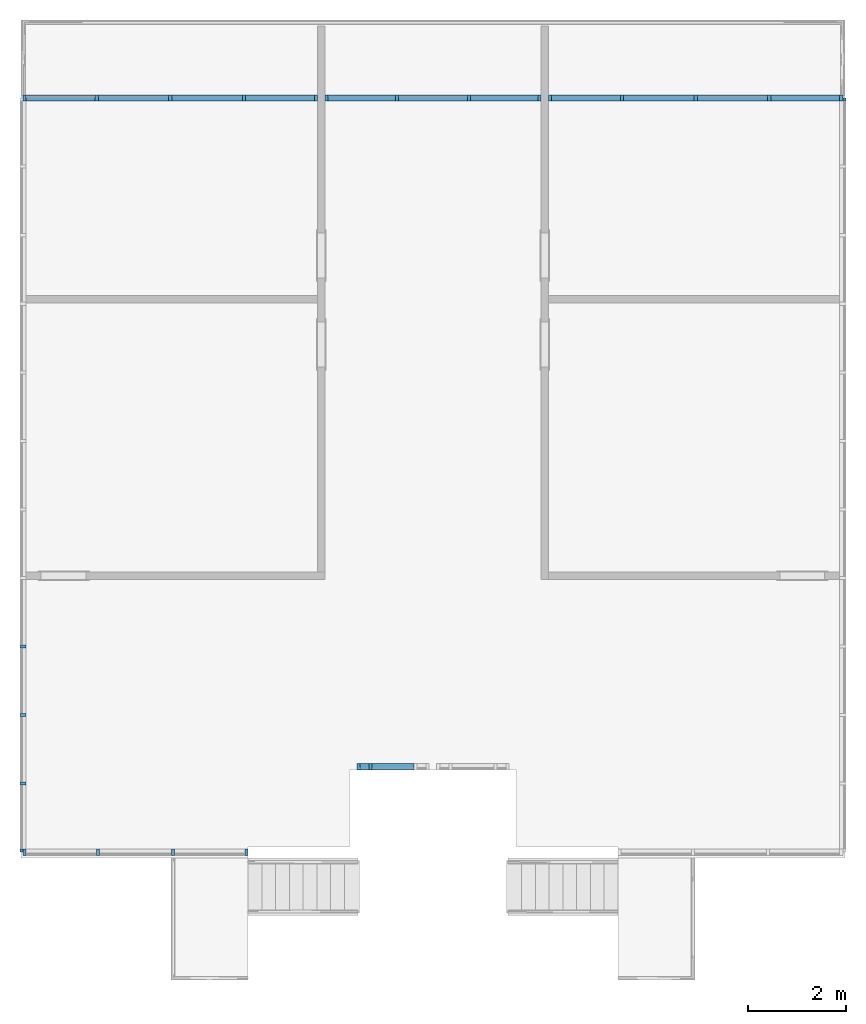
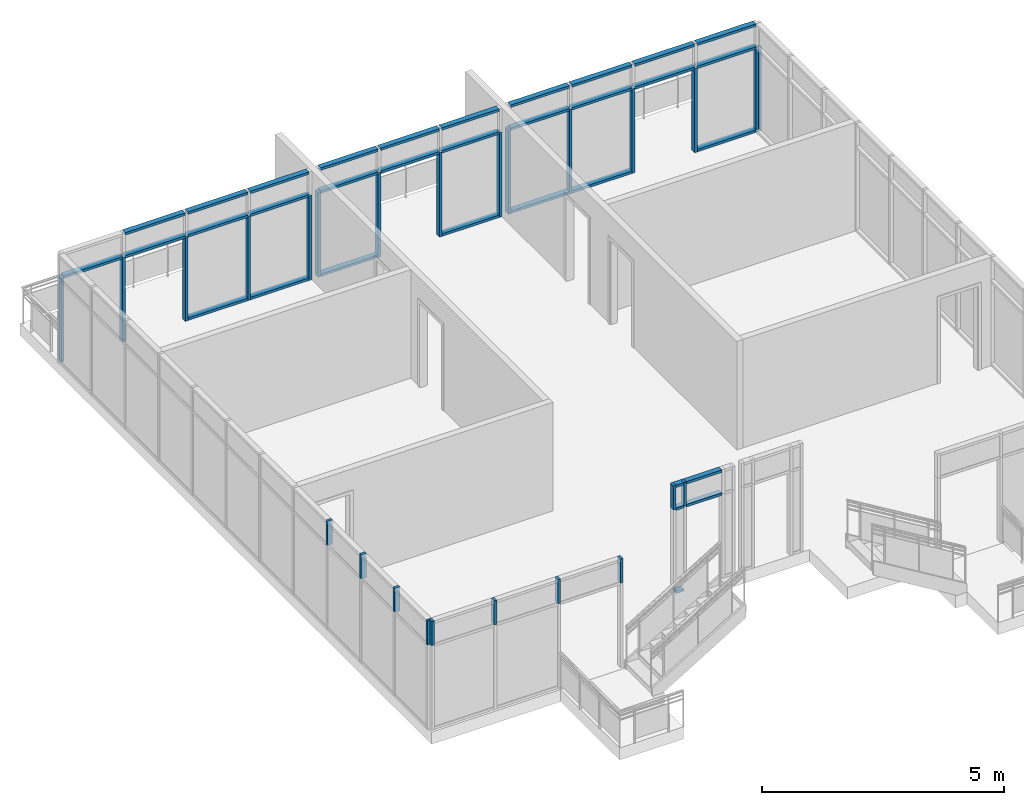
# One storey, part 3 of 11: 58 members, 7 elements without a shape of their own.
"""IFC2X3 building model written with IfcOpenShell, lengths in feet."""

from ifc_helpers import new_model, entity, si_unit, converted_unit, derived_unit, direction, frame, origin, origin_2d_with_axis, place, context, subcontext, project, spatial, rectangle, extrude, source, transform, mapped, material, type_object, type_shapes, element, aggregate, save


model = new_model("IFC2X3")

# Units and contexts
model_context = context("Model", 3, precision=0.0001, world=origin(), true_north=direction((6.12303176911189e-17, 1.0)))
body_context = subcontext(model_context, "Body", "Model", "MODEL_VIEW")
ifc_project = project(units=[converted_unit("LENGTHUNIT", "FOOT", entity("IfcRatioMeasure", 0.3048), si_unit("LENGTHUNIT", "METRE"), dimensions=[1, 0, 0, 0, 0, 0, 0]), converted_unit("AREAUNIT", "SQUARE FOOT", entity("IfcRatioMeasure", 0.09290304), si_unit("AREAUNIT", "SQUARE_METRE"), dimensions=[2, 0, 0, 0, 0, 0, 0]), converted_unit("VOLUMEUNIT", "CUBIC FOOT", entity("IfcRatioMeasure", 0.028316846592), si_unit("VOLUMEUNIT", "CUBIC_METRE"), dimensions=[3, 0, 0, 0, 0, 0, 0]), converted_unit("PLANEANGLEUNIT", "DEGREE", entity("IfcRatioMeasure", 0.0174532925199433), si_unit("PLANEANGLEUNIT", "RADIAN"), dimensions=[0, 0, 0, 0, 0, 0, 0]), si_unit("MASSUNIT", "GRAM", prefix="KILO"), derived_unit("MASSDENSITYUNIT", [(si_unit("MASSUNIT", "GRAM", prefix="KILO"), 1), (si_unit("LENGTHUNIT", "METRE"), -3)]), si_unit("TIMEUNIT", "SECOND"), si_unit("FREQUENCYUNIT", "HERTZ"), si_unit("THERMODYNAMICTEMPERATUREUNIT", "DEGREE_CELSIUS"), derived_unit("THERMALTRANSMITTANCEUNIT", [(si_unit("MASSUNIT", "GRAM", prefix="KILO"), 1), (si_unit("THERMODYNAMICTEMPERATUREUNIT", "KELVIN"), -1), (si_unit("TIMEUNIT", "SECOND"), -3)]), derived_unit("VOLUMETRICFLOWRATEUNIT", [(si_unit("LENGTHUNIT", "METRE"), 3), (si_unit("TIMEUNIT", "SECOND"), -1)]), si_unit("ELECTRICCURRENTUNIT", "AMPERE"), si_unit("ELECTRICVOLTAGEUNIT", "VOLT"), si_unit("POWERUNIT", "WATT"), si_unit("FORCEUNIT", "NEWTON"), si_unit("ILLUMINANCEUNIT", "LUX"), si_unit("LUMINOUSFLUXUNIT", "LUMEN"), si_unit("LUMINOUSINTENSITYUNIT", "CANDELA"), derived_unit("USERDEFINED", [(si_unit("MASSUNIT", "GRAM", prefix="KILO"), -1), (si_unit("LENGTHUNIT", "METRE"), -2), (si_unit("TIMEUNIT", "SECOND"), 3), (si_unit("LUMINOUSFLUXUNIT", "LUMEN"), 1)]), derived_unit("LINEARVELOCITYUNIT", [(si_unit("LENGTHUNIT", "METRE"), 1), (si_unit("TIMEUNIT", "SECOND"), -1)]), si_unit("PRESSUREUNIT", "PASCAL"), derived_unit("USERDEFINED", [(si_unit("LENGTHUNIT", "METRE"), -2), (si_unit("MASSUNIT", "GRAM", prefix="KILO"), 1), (si_unit("TIMEUNIT", "SECOND"), -2)])], contexts=[model_context])

# Site, building, storey
site_placement = place(None, origin())
site = spatial("IfcSite", under=ifc_project, at=site_placement, Name="Default", CompositionType="ELEMENT")
building_placement = place(site_placement, origin())
building = spatial("IfcBuilding", under=site, at=building_placement, CompositionType="ELEMENT")
storey_placement = place(building_placement, frame((0.0, 0.0, 10.0)))
storey = spatial("IfcBuildingStorey", under=building, at=storey_placement, Name="Level 2", CompositionType="ELEMENT", Elevation=9.99999999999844)

# Curtain wall, member
curtain_wall_type = type_object("IfcCurtainWallType", Name="Curtain Wall:Storefront 2", PredefinedType="NOTDEFINED")
curtain_wall_1_placement = place(storey_placement, frame((0.0, 0.0, -10.0)))
curtain_wall_1 = element("IfcCurtainWall", 1, at=curtain_wall_1_placement, inside=storey, type_object=curtain_wall_type, Name="Curtain Wall:Storefront 2", ObjectType="Curtain Wall:Storefront 2")
ifc_material = material(Name="Aluminum")
member_type_1 = type_object("IfcMemberType", Name="2.5\" x 5\" rectangular", PredefinedType="MEMBER")
shared_shape_1 = source(origin(), body_context, "Body", "SweptSolid", [
    extrude(rectangle(XDim=0.416666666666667, YDim=0.208333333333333, at=origin_2d_with_axis()), frame((-0.104166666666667, 0.0, -7.0), z_axis=(0.0, 0.0, 1.0), x_axis=(0.0, -1.0, 0.0)), (0.0, 0.0, 1.0), 7.0),
])
type_shapes(member_type_1, [shared_shape_1])
member_1_placement = place(storey_placement, frame((-41.6963748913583, 43.3505254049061, 0.0), z_axis=(0.0, 0.0, -1.0), x_axis=(1.0, 0.0, 0.0)))
member_1 = element("IfcMember", 2, at=member_1_placement, type_object=member_type_1, material=ifc_material, Name="Rectangular Mullion:2.5\" x 5\" rectangular", ObjectType="2.5\" x 5\" rectangular", context=body_context, shape_type="MappedRepresentation", body=[
    mapped(shared_shape_1, transform((0.0, 0.0, 0.0), scale=1.0)),
])

curtain_wall_2_placement = place(storey_placement, frame((0.0, 0.0, -10.0)))
curtain_wall_2 = element("IfcCurtainWall", 3, at=curtain_wall_2_placement, inside=storey, type_object=curtain_wall_type, Name="Curtain Wall:Storefront 2", ObjectType="Curtain Wall:Storefront 2")
member_2_placement = place(storey_placement, frame((-6.65849610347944, 43.350525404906, 0.0), z_axis=(0.0, 0.0, -1.0), x_axis=(1.0, 0.0, 0.0)))
member_2 = element("IfcMember", 4, at=member_2_placement, type_object=member_type_1, material=ifc_material, Name="Rectangular Mullion:2.5\" x 5\" rectangular", ObjectType="2.5\" x 5\" rectangular", context=body_context, shape_type="MappedRepresentation", body=[
    mapped(shared_shape_1, transform((0.0, 0.0, 0.0), scale=1.0)),
])

curtain_wall_3_placement = place(storey_placement, frame((0.0, 0.0, -10.0)))
curtain_wall_3 = element("IfcCurtainWall", 5, at=curtain_wall_3_placement, inside=storey, type_object=curtain_wall_type, Name="Curtain Wall:Storefront 2", ObjectType="Curtain Wall:Storefront 2")
member_3_placement = place(storey_placement, frame((-26.7872839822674, 43.350525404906, 0.0), z_axis=(0.0, 0.0, -1.0), x_axis=(1.0, 0.0, 0.0)))
member_3 = element("IfcMember", 6, at=member_3_placement, type_object=member_type_1, material=ifc_material, Name="Rectangular Mullion:2.5\" x 5\" rectangular", ObjectType="2.5\" x 5\" rectangular", context=body_context, shape_type="MappedRepresentation", body=[
    mapped(shared_shape_1, transform((0.0, 0.0, 0.0), scale=1.0)),
])

curtain_wall_4_placement = place(storey_placement, frame((0.0, 0.0, -10.0)))
curtain_wall_4 = element("IfcCurtainWall", 7, at=curtain_wall_4_placement, inside=storey, type_object=curtain_wall_type, Name="Curtain Wall:Storefront 2", ObjectType="Curtain Wall:Storefront 2")
member_type_2 = type_object("IfcMemberType", Name="2.5\" x 5\" rectangular", PredefinedType="MEMBER")
shared_shape_2 = source(origin(), body_context, "Body", "SweptSolid", [
    extrude(rectangle(XDim=0.416666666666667, YDim=0.208333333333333, at=origin_2d_with_axis()), frame((-0.104166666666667, 0.0, -2.0), z_axis=(0.0, 0.0, 1.0), x_axis=(0.0, -1.0, 0.0)), (0.0, 0.0, 1.0), 2.0),
])
type_shapes(member_type_2, [shared_shape_2])
member_4_placement = place(storey_placement, frame((-61.3251627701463, -6.94114126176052, 7.0), z_axis=(0.0, 0.0, -1.0), x_axis=(-1.0, 0.0, 0.0)))
member_4 = element("IfcMember", 8, at=member_4_placement, type_object=member_type_2, material=ifc_material, Name="Rectangular Mullion:2.5\" x 5\" rectangular", ObjectType="2.5\" x 5\" rectangular", context=body_context, shape_type="MappedRepresentation", body=[
    mapped(shared_shape_2, transform((0.0, 0.0, 0.0), scale=1.0)),
])

curtain_wall_5_placement = place(storey_placement, frame((0.0, 0.0, -10.0)))
curtain_wall_5 = element("IfcCurtainWall", 9, at=curtain_wall_5_placement, inside=storey, type_object=curtain_wall_type, Name="Curtain Wall:Storefront 2", ObjectType="Curtain Wall:Storefront 2")
member_5_placement = place(storey_placement, frame((-39.0751627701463, -1.23280792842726, 7.0), z_axis=(0.0, 0.0, -1.0), x_axis=(-1.0, 0.0, 0.0)))
member_5 = element("IfcMember", 10, at=member_5_placement, type_object=member_type_2, material=ifc_material, Name="Rectangular Mullion:2.5\" x 5\" rectangular", ObjectType="2.5\" x 5\" rectangular", context=body_context, shape_type="MappedRepresentation", body=[
    mapped(shared_shape_2, transform((0.0, 0.0, 0.0), scale=1.0)),
])

# Member
member_type_3 = type_object("IfcMemberType", Name="2.5\" x 5\" rectangular", PredefinedType="MEMBER")
shared_shape_3 = source(origin(), body_context, "Body", "SweptSolid", [
    extrude(rectangle(XDim=0.416666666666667, YDim=0.208333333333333, at=origin_2d_with_axis()), frame((-0.104166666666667, 0.0, -2.0), z_axis=(0.0, 0.0, 1.0), x_axis=(0.0, -1.0, 0.0)), (0.0, 0.0, 1.0), 2.0),
])
type_shapes(member_type_3, [shared_shape_3])
member_6_placement = place(storey_placement, frame((-46.3251627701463, -6.94114126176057, 9.0)))
member_6 = element("IfcMember", 11, at=member_6_placement, type_object=member_type_3, material=ifc_material, Name="Rectangular Mullion:2.5\" x 5\" rectangular", ObjectType="2.5\" x 5\" rectangular", context=body_context, shape_type="MappedRepresentation", body=[
    mapped(shared_shape_3, transform((0.0, 0.0, 0.0), scale=1.0)),
])

# Curtain wall, member
curtain_wall_6_placement = place(storey_placement, frame((0.0, 0.0, -10.0)))
curtain_wall_6 = element("IfcCurtainWall", 12, at=curtain_wall_6_placement, inside=storey, type_object=curtain_wall_type, Name="Curtain Wall:Storefront 2", ObjectType="Curtain Wall:Storefront 2")
member_7_placement = place(storey_placement, frame((-61.3251627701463, -6.94114126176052, 9.0), z_axis=(0.0, 0.0, 1.0), x_axis=(0.0, -1.0, 0.0)))
member_7 = element("IfcMember", 13, at=member_7_placement, type_object=member_type_3, material=ifc_material, Name="Rectangular Mullion:2.5\" x 5\" rectangular", ObjectType="2.5\" x 5\" rectangular", context=body_context, shape_type="MappedRepresentation", body=[
    mapped(shared_shape_3, transform((0.0, 0.0, 0.0), scale=1.0)),
])

# Member
member_type_4 = type_object("IfcMemberType", Name="2.5\" x 5\" rectangular", PredefinedType="MEMBER")
shared_shape_4 = source(origin(), body_context, "Body", "SweptSolid", [
    extrude(rectangle(XDim=0.416666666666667, YDim=0.208333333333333, at=origin_2d_with_axis()), frame((-0.104166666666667, 0.0, -7.0), z_axis=(0.0, 0.0, 1.0), x_axis=(0.0, -1.0, 0.0)), (0.0, 0.0, 1.0), 7.0),
])
type_shapes(member_type_4, [shared_shape_4])
member_8_placement = place(storey_placement, frame((-61.3251627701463, 43.3505254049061, 7.0), z_axis=(0.0, 0.0, 1.0), x_axis=(-1.0, 0.0, 0.0)))
member_8 = element("IfcMember", 14, at=member_8_placement, type_object=member_type_4, material=ifc_material, Name="Rectangular Mullion:2.5\" x 5\" rectangular", ObjectType="2.5\" x 5\" rectangular", context=body_context, shape_type="MappedRepresentation", body=[
    mapped(shared_shape_4, transform((0.0, 0.0, 0.0), scale=1.0)),
])

# Curtain wall, member
curtain_wall_7_placement = place(storey_placement, frame((0.0, 0.0, -10.0)))
curtain_wall_7 = element("IfcCurtainWall", 15, at=curtain_wall_7_placement, inside=storey, type_object=curtain_wall_type, Name="Curtain Wall:Storefront 2", ObjectType="Curtain Wall:Storefront 2")
member_9_placement = place(storey_placement, frame((-6.65849610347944, 43.350525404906, 7.0), z_axis=(0.0, 0.0, 1.0), x_axis=(0.0, 1.0, 0.0)))
member_9 = element("IfcMember", 16, at=member_9_placement, type_object=member_type_4, material=ifc_material, Name="Rectangular Mullion:2.5\" x 5\" rectangular", ObjectType="2.5\" x 5\" rectangular", context=body_context, shape_type="MappedRepresentation", body=[
    mapped(shared_shape_4, transform((0.0, 0.0, 0.0), scale=1.0)),
])
aggregate(curtain_wall_7, [member_9])

# Member
member_10_placement = place(storey_placement, frame((-26.2872839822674, 43.350525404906, 7.0), z_axis=(0.0, 0.0, 1.0), x_axis=(-1.0, 0.0, 0.0)))
member_10 = element("IfcMember", 17, at=member_10_placement, type_object=member_type_4, material=ifc_material, Name="Rectangular Mullion:2.5\" x 5\" rectangular", ObjectType="2.5\" x 5\" rectangular", context=body_context, shape_type="MappedRepresentation", body=[
    mapped(shared_shape_4, transform((0.0, 0.0, 0.0), scale=1.0)),
])

member_11_placement = place(storey_placement, frame((-41.1963748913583, 43.3505254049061, 7.0), z_axis=(0.0, 0.0, 1.0), x_axis=(-1.0, 0.0, 0.0)))
member_11 = element("IfcMember", 18, at=member_11_placement, type_object=member_type_4, material=ifc_material, Name="Rectangular Mullion:2.5\" x 5\" rectangular", ObjectType="2.5\" x 5\" rectangular", context=body_context, shape_type="MappedRepresentation", body=[
    mapped(shared_shape_4, transform((0.0, 0.0, 0.0), scale=1.0)),
])

member_type_5 = type_object("IfcMemberType", Name="2.5\" x 5\" rectangular", PredefinedType="MEMBER")
shared_shape_5 = source(origin(), body_context, "Body", "SweptSolid", [
    extrude(rectangle(XDim=0.416666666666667, YDim=0.208333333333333, at=origin_2d_with_axis()), frame((0.0, 0.0, -7.0), z_axis=(0.0, 0.0, 1.0), x_axis=(0.0, -1.0, 0.0)), (0.0, 0.0, 1.0), 7.0),
])
type_shapes(member_type_5, [shared_shape_5])
member_12_placement = place(storey_placement, frame((-56.4179658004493, 43.3505254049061, 0.0), z_axis=(0.0, 0.0, -1.0), x_axis=(1.0, 0.0, 0.0)))
member_12 = element("IfcMember", 19, at=member_12_placement, type_object=member_type_5, material=ifc_material, Name="Rectangular Mullion:2.5\" x 5\" rectangular", ObjectType="2.5\" x 5\" rectangular", context=body_context, shape_type="MappedRepresentation", body=[
    mapped(shared_shape_5, transform((0.0, 0.0, 0.0), scale=1.0)),
])

member_13_placement = place(storey_placement, frame((-51.5107688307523, 43.3505254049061, 0.0), z_axis=(0.0, 0.0, -1.0), x_axis=(1.0, 0.0, 0.0)))
member_13 = element("IfcMember", 20, at=member_13_placement, type_object=member_type_5, material=ifc_material, Name="Rectangular Mullion:2.5\" x 5\" rectangular", ObjectType="2.5\" x 5\" rectangular", context=body_context, shape_type="MappedRepresentation", body=[
    mapped(shared_shape_5, transform((0.0, 0.0, 0.0), scale=1.0)),
])

member_14_placement = place(storey_placement, frame((-46.6035718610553, 43.3505254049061, 0.0), z_axis=(0.0, 0.0, -1.0), x_axis=(1.0, 0.0, 0.0)))
member_14 = element("IfcMember", 21, at=member_14_placement, type_object=member_type_5, material=ifc_material, Name="Rectangular Mullion:2.5\" x 5\" rectangular", ObjectType="2.5\" x 5\" rectangular", context=body_context, shape_type="MappedRepresentation", body=[
    mapped(shared_shape_5, transform((0.0, 0.0, 0.0), scale=1.0)),
])

member_15_placement = place(storey_placement, frame((-21.3800870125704, 43.350525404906, 0.0), z_axis=(0.0, 0.0, -1.0), x_axis=(1.0, 0.0, 0.0)))
member_15 = element("IfcMember", 22, at=member_15_placement, type_object=member_type_5, material=ifc_material, Name="Rectangular Mullion:2.5\" x 5\" rectangular", ObjectType="2.5\" x 5\" rectangular", context=body_context, shape_type="MappedRepresentation", body=[
    mapped(shared_shape_5, transform((0.0, 0.0, 0.0), scale=1.0)),
])

member_16_placement = place(storey_placement, frame((-16.4728900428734, 43.350525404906, 0.0), z_axis=(0.0, 0.0, -1.0), x_axis=(1.0, 0.0, 0.0)))
member_16 = element("IfcMember", 23, at=member_16_placement, type_object=member_type_5, material=ifc_material, Name="Rectangular Mullion:2.5\" x 5\" rectangular", ObjectType="2.5\" x 5\" rectangular", context=body_context, shape_type="MappedRepresentation", body=[
    mapped(shared_shape_5, transform((0.0, 0.0, 0.0), scale=1.0)),
])

member_17_placement = place(storey_placement, frame((-11.5656930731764, 43.350525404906, 0.0), z_axis=(0.0, 0.0, -1.0), x_axis=(1.0, 0.0, 0.0)))
member_17 = element("IfcMember", 24, at=member_17_placement, type_object=member_type_5, material=ifc_material, Name="Rectangular Mullion:2.5\" x 5\" rectangular", ObjectType="2.5\" x 5\" rectangular", context=body_context, shape_type="MappedRepresentation", body=[
    mapped(shared_shape_5, transform((0.0, 0.0, 0.0), scale=1.0)),
])

member_18_placement = place(storey_placement, frame((-36.393344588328, 43.3505254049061, 0.0), z_axis=(0.0, 0.0, -1.0), x_axis=(1.0, 0.0, 0.0)))
member_18 = element("IfcMember", 25, at=member_18_placement, type_object=member_type_5, material=ifc_material, Name="Rectangular Mullion:2.5\" x 5\" rectangular", ObjectType="2.5\" x 5\" rectangular", context=body_context, shape_type="MappedRepresentation", body=[
    mapped(shared_shape_5, transform((0.0, 0.0, 0.0), scale=1.0)),
])

member_19_placement = place(storey_placement, frame((-31.5903142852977, 43.350525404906, 0.0), z_axis=(0.0, 0.0, -1.0), x_axis=(1.0, 0.0, 0.0)))
member_19 = element("IfcMember", 26, at=member_19_placement, type_object=member_type_5, material=ifc_material, Name="Rectangular Mullion:2.5\" x 5\" rectangular", ObjectType="2.5\" x 5\" rectangular", context=body_context, shape_type="MappedRepresentation", body=[
    mapped(shared_shape_5, transform((0.0, 0.0, 0.0), scale=1.0)),
])

member_type_6 = type_object("IfcMemberType", Name="2.5\" x 5\" rectangular", PredefinedType="MEMBER")
shared_shape_6 = source(origin(), body_context, "Body", "SweptSolid", [
    extrude(rectangle(XDim=0.416666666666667, YDim=0.208333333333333, at=origin_2d_with_axis()), frame((0.0, 0.0, -2.0), z_axis=(0.0, 0.0, 1.0), x_axis=(0.0, -1.0, 0.0)), (0.0, 0.0, 1.0), 2.0),
])
type_shapes(member_type_6, [shared_shape_6])
member_20_placement = place(storey_placement, frame((-51.3251627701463, -6.94114126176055, 7.0), z_axis=(0.0, 0.0, -1.0), x_axis=(-1.0, 0.0, 0.0)))
member_20 = element("IfcMember", 27, at=member_20_placement, type_object=member_type_6, material=ifc_material, Name="Rectangular Mullion:2.5\" x 5\" rectangular", ObjectType="2.5\" x 5\" rectangular", context=body_context, shape_type="MappedRepresentation", body=[
    mapped(shared_shape_6, transform((0.0, 0.0, 0.0), scale=1.0)),
])

member_21_placement = place(storey_placement, frame((-56.3251627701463, -6.94114126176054, 7.0), z_axis=(0.0, 0.0, -1.0), x_axis=(-1.0, 0.0, 0.0)))
member_21 = element("IfcMember", 28, at=member_21_placement, type_object=member_type_6, material=ifc_material, Name="Rectangular Mullion:2.5\" x 5\" rectangular", ObjectType="2.5\" x 5\" rectangular", context=body_context, shape_type="MappedRepresentation", body=[
    mapped(shared_shape_6, transform((0.0, 0.0, 0.0), scale=1.0)),
])

aggregate(curtain_wall_4, [member_4, member_6, member_20, member_21])

member_22_placement = place(storey_placement, frame((-38.1584961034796, -1.23280792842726, 7.0), z_axis=(0.0, 0.0, -1.0), x_axis=(-1.0, 0.0, 0.0)))
member_22 = element("IfcMember", 29, at=member_22_placement, type_object=member_type_6, material=ifc_material, Name="Rectangular Mullion:2.5\" x 5\" rectangular", ObjectType="2.5\" x 5\" rectangular", context=body_context, shape_type="MappedRepresentation", body=[
    mapped(shared_shape_6, transform((0.0, 0.0, 0.0), scale=1.0)),
])

member_23_placement = place(storey_placement, frame((-61.3251627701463, -2.36917156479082, 7.0), z_axis=(0.0, 0.0, -1.0), x_axis=(0.0, 1.0, 0.0)))
member_23 = element("IfcMember", 30, at=member_23_placement, type_object=member_type_6, material=ifc_material, Name="Rectangular Mullion:2.5\" x 5\" rectangular", ObjectType="2.5\" x 5\" rectangular", context=body_context, shape_type="MappedRepresentation", body=[
    mapped(shared_shape_6, transform((0.0, 0.0, 0.0), scale=1.0)),
])

member_24_placement = place(storey_placement, frame((-61.3251627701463, 2.20279813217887, 7.0), z_axis=(0.0, 0.0, -1.0), x_axis=(0.0, 1.0, 0.0)))
member_24 = element("IfcMember", 31, at=member_24_placement, type_object=member_type_6, material=ifc_material, Name="Rectangular Mullion:2.5\" x 5\" rectangular", ObjectType="2.5\" x 5\" rectangular", context=body_context, shape_type="MappedRepresentation", body=[
    mapped(shared_shape_6, transform((0.0, 0.0, 0.0), scale=1.0)),
])

member_25_placement = place(storey_placement, frame((-61.3251627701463, 6.77476782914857, 7.0), z_axis=(0.0, 0.0, -1.0), x_axis=(0.0, 1.0, 0.0)))
member_25 = element("IfcMember", 32, at=member_25_placement, type_object=member_type_6, material=ifc_material, Name="Rectangular Mullion:2.5\" x 5\" rectangular", ObjectType="2.5\" x 5\" rectangular", context=body_context, shape_type="MappedRepresentation", body=[
    mapped(shared_shape_6, transform((0.0, 0.0, 0.0), scale=1.0)),
])

aggregate(curtain_wall_6, [member_7, member_23, member_24, member_25])

member_type_7 = type_object("IfcMemberType", Name="2.5\" x 5\" rectangular", PredefinedType="MEMBER")
shared_shape_7 = source(origin(), body_context, "Body", "SweptSolid", [
    extrude(rectangle(XDim=0.416666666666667, YDim=0.208333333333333, at=origin_2d_with_axis()), frame((-0.104166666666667, 0.0, -0.604166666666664), z_axis=(0.0, 0.0, 1.0), x_axis=(0.0, -1.0, 0.0)), (0.0, 0.0, 1.0), 0.604166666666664),
])
type_shapes(member_type_7, [shared_shape_7])
member_26_placement = place(storey_placement, frame((-38.8668294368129, -1.23280792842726, 9.0), z_axis=(-1.0, 0.0, 0.0), x_axis=(0.0, 0.0, 1.0)))
member_26 = element("IfcMember", 33, at=member_26_placement, type_object=member_type_7, material=ifc_material, Name="Rectangular Mullion:2.5\" x 5\" rectangular", ObjectType="2.5\" x 5\" rectangular", context=body_context, shape_type="MappedRepresentation", body=[
    mapped(shared_shape_7, transform((0.0, 0.0, 0.0), scale=1.0)),
])

member_type_8 = type_object("IfcMemberType", Name="2.5\" x 5\" rectangular", PredefinedType="MEMBER")
shared_shape_8 = source(origin(), body_context, "Body", "SweptSolid", [
    extrude(rectangle(XDim=0.416666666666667, YDim=0.208333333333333, at=origin_2d_with_axis()), frame((-0.104166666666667, 0.0, -0.604166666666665), z_axis=(0.0, 0.0, 1.0), x_axis=(0.0, -1.0, 0.0)), (0.0, 0.0, 1.0), 0.604166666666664),
])
type_shapes(member_type_8, [shared_shape_8])
member_27_placement = place(storey_placement, frame((-38.2626627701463, -1.23280792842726, 0.0), z_axis=(1.0, 0.0, 0.0), x_axis=(0.0, 0.0, -1.0)))
member_27 = element("IfcMember", 34, at=member_27_placement, type_object=member_type_8, material=ifc_material, Name="Rectangular Mullion:2.5\" x 5\" rectangular", ObjectType="2.5\" x 5\" rectangular", context=body_context, shape_type="MappedRepresentation", body=[
    mapped(shared_shape_8, transform((0.0, 0.0, 0.0), scale=1.0)),
])

member_type_9 = type_object("IfcMemberType", Name="2.5\" x 5\" rectangular", PredefinedType="MEMBER")
shared_shape_9 = source(origin(), body_context, "Body", "SweptSolid", [
    extrude(rectangle(XDim=0.416666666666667, YDim=0.208333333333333, at=origin_2d_with_axis()), frame((0.0, 0.0, -0.604166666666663), z_axis=(0.0, 0.0, 1.0), x_axis=(0.0, -1.0, 0.0)), (0.0, 0.0, 1.0), 0.604166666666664),
])
type_shapes(member_type_9, [shared_shape_9])
member_28_placement = place(storey_placement, frame((-38.8668294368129, -1.23280792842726, 7.0), z_axis=(-1.0, 0.0, 0.0), x_axis=(0.0, 0.0, 1.0)))
member_28 = element("IfcMember", 35, at=member_28_placement, type_object=member_type_9, material=ifc_material, Name="Rectangular Mullion:2.5\" x 5\" rectangular", ObjectType="2.5\" x 5\" rectangular", context=body_context, shape_type="MappedRepresentation", body=[
    mapped(shared_shape_9, transform((0.0, 0.0, 0.0), scale=1.0)),
])

member_type_10 = type_object("IfcMemberType", Name="2.5\" x 5\" rectangular", PredefinedType="MEMBER")
shared_shape_10 = source(origin(), body_context, "Body", "SweptSolid", [
    extrude(rectangle(XDim=0.416666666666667, YDim=0.208333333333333, at=origin_2d_with_axis()), frame((0.0, 0.0, -2.79166666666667), z_axis=(0.0, 0.0, 1.0), x_axis=(0.0, -1.0, 0.0)), (0.0, 0.0, 1.0), 2.79166666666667),
])
type_shapes(member_type_10, [shared_shape_10])
member_29_placement = place(storey_placement, frame((-38.0543294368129, -1.23280792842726, 7.0), z_axis=(-1.0, 0.0, 0.0), x_axis=(0.0, 0.0, 1.0)))
member_29 = element("IfcMember", 36, at=member_29_placement, type_object=member_type_10, material=ifc_material, Name="Rectangular Mullion:2.5\" x 5\" rectangular", ObjectType="2.5\" x 5\" rectangular", context=body_context, shape_type="MappedRepresentation", body=[
    mapped(shared_shape_10, transform((0.0, 0.0, 0.0), scale=1.0)),
])

member_type_11 = type_object("IfcMemberType", Name="2.5\" x 5\" rectangular", PredefinedType="MEMBER")
shared_shape_11 = source(origin(), body_context, "Body", "SweptSolid", [
    extrude(rectangle(XDim=0.416666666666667, YDim=0.208333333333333, at=origin_2d_with_axis()), frame((-0.104166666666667, 0.0, -2.79166666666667), z_axis=(0.0, 0.0, 1.0), x_axis=(0.0, -1.0, 0.0)), (0.0, 0.0, 1.0), 2.79166666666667),
])
type_shapes(member_type_11, [shared_shape_11])
member_30_placement = place(storey_placement, frame((-38.0543294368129, -1.23280792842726, 9.0), z_axis=(-1.0, 0.0, 0.0), x_axis=(0.0, 0.0, 1.0)))
member_30 = element("IfcMember", 37, at=member_30_placement, type_object=member_type_11, material=ifc_material, Name="Rectangular Mullion:2.5\" x 5\" rectangular", ObjectType="2.5\" x 5\" rectangular", context=body_context, shape_type="MappedRepresentation", body=[
    mapped(shared_shape_11, transform((0.0, 0.0, 0.0), scale=1.0)),
])

aggregate(curtain_wall_5, [member_26, member_5, member_29, member_30, member_27, member_28, member_22])

member_type_12 = type_object("IfcMemberType", Name="2.5\" x 5\" rectangular", PredefinedType="MEMBER")
shared_shape_12 = source(origin(), body_context, "Body", "SweptSolid", [
    extrude(rectangle(XDim=0.416666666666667, YDim=0.208333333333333, at=origin_2d_with_axis()), frame((-0.104166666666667, 0.0, -4.49053030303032), z_axis=(0.0, 0.0, 1.0), x_axis=(0.0, -1.0, 0.0)), (0.0, 0.0, 1.0), 4.49053030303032),
])
type_shapes(member_type_12, [shared_shape_12])
member_31_placement = place(storey_placement, frame((-26.9956173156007, 43.350525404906, 9.0), z_axis=(1.0, 0.0, 0.0), x_axis=(0.0, 0.0, 1.0)))
member_31 = element("IfcMember", 38, at=member_31_placement, type_object=member_type_12, material=ifc_material, Name="Rectangular Mullion:2.5\" x 5\" rectangular", ObjectType="2.5\" x 5\" rectangular", context=body_context, shape_type="MappedRepresentation", body=[
    mapped(shared_shape_12, transform((0.0, 0.0, 0.0), scale=1.0)),
])

member_32_placement = place(storey_placement, frame((-36.4975112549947, 43.3505254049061, 9.0), z_axis=(1.0, 0.0, 0.0), x_axis=(0.0, 0.0, 1.0)))
member_32 = element("IfcMember", 39, at=member_32_placement, type_object=member_type_12, material=ifc_material, Name="Rectangular Mullion:2.5\" x 5\" rectangular", ObjectType="2.5\" x 5\" rectangular", context=body_context, shape_type="MappedRepresentation", body=[
    mapped(shared_shape_12, transform((0.0, 0.0, 0.0), scale=1.0)),
])

member_type_13 = type_object("IfcMemberType", Name="2.5\" x 5\" rectangular", PredefinedType="MEMBER")
shared_shape_13 = source(origin(), body_context, "Body", "SweptSolid", [
    extrude(rectangle(XDim=0.416666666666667, YDim=0.208333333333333, at=origin_2d_with_axis()), frame((-0.104166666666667, 0.0, -4.59469696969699), z_axis=(0.0, 0.0, 1.0), x_axis=(0.0, -1.0, 0.0)), (0.0, 0.0, 1.0), 4.59469696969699),
])
type_shapes(member_type_13, [shared_shape_13])
member_33_placement = place(storey_placement, frame((-41.9047082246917, 43.3505254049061, 9.0), z_axis=(1.0, 0.0, 0.0), x_axis=(0.0, 0.0, 1.0)))
member_33 = element("IfcMember", 40, at=member_33_placement, type_object=member_type_13, material=ifc_material, Name="Rectangular Mullion:2.5\" x 5\" rectangular", ObjectType="2.5\" x 5\" rectangular", context=body_context, shape_type="MappedRepresentation", body=[
    mapped(shared_shape_13, transform((0.0, 0.0, 0.0), scale=1.0)),
])

member_34_placement = place(storey_placement, frame((-6.86682943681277, 43.350525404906, 9.0), z_axis=(1.0, 0.0, 0.0), x_axis=(0.0, 0.0, 1.0)))
member_34 = element("IfcMember", 41, at=member_34_placement, type_object=member_type_13, material=ifc_material, Name="Rectangular Mullion:2.5\" x 5\" rectangular", ObjectType="2.5\" x 5\" rectangular", context=body_context, shape_type="MappedRepresentation", body=[
    mapped(shared_shape_13, transform((0.0, 0.0, 0.0), scale=1.0)),
])

member_35_placement = place(storey_placement, frame((-21.4842536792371, 43.350525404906, 9.0), z_axis=(1.0, 0.0, 0.0), x_axis=(0.0, 0.0, 1.0)))
member_35 = element("IfcMember", 42, at=member_35_placement, type_object=member_type_13, material=ifc_material, Name="Rectangular Mullion:2.5\" x 5\" rectangular", ObjectType="2.5\" x 5\" rectangular", context=body_context, shape_type="MappedRepresentation", body=[
    mapped(shared_shape_13, transform((0.0, 0.0, 0.0), scale=1.0)),
])

member_36_placement = place(storey_placement, frame((-31.6944809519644, 43.350525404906, 9.0), z_axis=(1.0, 0.0, 0.0), x_axis=(0.0, 0.0, 1.0)))
member_36 = element("IfcMember", 43, at=member_36_placement, type_object=member_type_13, material=ifc_material, Name="Rectangular Mullion:2.5\" x 5\" rectangular", ObjectType="2.5\" x 5\" rectangular", context=body_context, shape_type="MappedRepresentation", body=[
    mapped(shared_shape_13, transform((0.0, 0.0, 0.0), scale=1.0)),
])

member_type_14 = type_object("IfcMemberType", Name="2.5\" x 5\" rectangular", PredefinedType="MEMBER")
shared_shape_14 = source(origin(), body_context, "Body", "SweptSolid", [
    extrude(rectangle(XDim=0.416666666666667, YDim=0.208333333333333, at=origin_2d_with_axis()), frame((-0.104166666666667, 0.0, -4.49053030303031), z_axis=(0.0, 0.0, 1.0), x_axis=(0.0, -1.0, 0.0)), (0.0, 0.0, 1.0), 4.49053030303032),
])
type_shapes(member_type_14, [shared_shape_14])
member_37_placement = place(storey_placement, frame((-40.988041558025, 43.3505254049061, 0.0), z_axis=(-1.0, 0.0, 0.0), x_axis=(0.0, 0.0, -1.0)))
member_37 = element("IfcMember", 44, at=member_37_placement, type_object=member_type_14, material=ifc_material, Name="Rectangular Mullion:2.5\" x 5\" rectangular", ObjectType="2.5\" x 5\" rectangular", context=body_context, shape_type="MappedRepresentation", body=[
    mapped(shared_shape_14, transform((0.0, 0.0, 0.0), scale=1.0)),
])

member_38_placement = place(storey_placement, frame((-31.486147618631, 43.350525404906, 0.0), z_axis=(-1.0, 0.0, 0.0), x_axis=(0.0, 0.0, -1.0)))
member_38 = element("IfcMember", 45, at=member_38_placement, type_object=member_type_14, material=ifc_material, Name="Rectangular Mullion:2.5\" x 5\" rectangular", ObjectType="2.5\" x 5\" rectangular", context=body_context, shape_type="MappedRepresentation", body=[
    mapped(shared_shape_14, transform((0.0, 0.0, 0.0), scale=1.0)),
])

member_type_15 = type_object("IfcMemberType", Name="2.5\" x 5\" rectangular", PredefinedType="MEMBER")
shared_shape_15 = source(origin(), body_context, "Body", "SweptSolid", [
    extrude(rectangle(XDim=0.416666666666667, YDim=0.208333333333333, at=origin_2d_with_axis()), frame((0.0, 0.0, -4.49053030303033), z_axis=(0.0, 0.0, 1.0), x_axis=(0.0, -1.0, 0.0)), (0.0, 0.0, 1.0), 4.49053030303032),
])
type_shapes(member_type_15, [shared_shape_15])
member_39_placement = place(storey_placement, frame((-36.4975112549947, 43.3505254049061, 7.0), z_axis=(1.0, 0.0, 0.0), x_axis=(0.0, 0.0, 1.0)))
member_39 = element("IfcMember", 46, at=member_39_placement, type_object=member_type_15, material=ifc_material, Name="Rectangular Mullion:2.5\" x 5\" rectangular", ObjectType="2.5\" x 5\" rectangular", context=body_context, shape_type="MappedRepresentation", body=[
    mapped(shared_shape_15, transform((0.0, 0.0, 0.0), scale=1.0)),
])

member_40_placement = place(storey_placement, frame((-26.9956173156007, 43.350525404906, 7.0), z_axis=(1.0, 0.0, 0.0), x_axis=(0.0, 0.0, 1.0)))
member_40 = element("IfcMember", 47, at=member_40_placement, type_object=member_type_15, material=ifc_material, Name="Rectangular Mullion:2.5\" x 5\" rectangular", ObjectType="2.5\" x 5\" rectangular", context=body_context, shape_type="MappedRepresentation", body=[
    mapped(shared_shape_15, transform((0.0, 0.0, 0.0), scale=1.0)),
])

member_type_16 = type_object("IfcMemberType", Name="2.5\" x 5\" rectangular", PredefinedType="MEMBER")
shared_shape_16 = source(origin(), body_context, "Body", "SweptSolid", [
    extrude(rectangle(XDim=0.416666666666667, YDim=0.208333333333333, at=origin_2d_with_axis()), frame((0.0, 0.0, -4.59469696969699), z_axis=(0.0, 0.0, 1.0), x_axis=(0.0, -1.0, 0.0)), (0.0, 0.0, 1.0), 4.59469696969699),
])
type_shapes(member_type_16, [shared_shape_16])
member_41_placement = place(storey_placement, frame((-56.522132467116, 43.3505254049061, 7.0), z_axis=(1.0, 0.0, 0.0), x_axis=(0.0, 0.0, 1.0)))
member_41 = element("IfcMember", 48, at=member_41_placement, type_object=member_type_16, material=ifc_material, Name="Rectangular Mullion:2.5\" x 5\" rectangular", ObjectType="2.5\" x 5\" rectangular", context=body_context, shape_type="MappedRepresentation", body=[
    mapped(shared_shape_16, transform((0.0, 0.0, 0.0), scale=1.0)),
])

member_42_placement = place(storey_placement, frame((-41.9047082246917, 43.3505254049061, 7.0), z_axis=(1.0, 0.0, 0.0), x_axis=(0.0, 0.0, 1.0)))
member_42 = element("IfcMember", 49, at=member_42_placement, type_object=member_type_16, material=ifc_material, Name="Rectangular Mullion:2.5\" x 5\" rectangular", ObjectType="2.5\" x 5\" rectangular", context=body_context, shape_type="MappedRepresentation", body=[
    mapped(shared_shape_16, transform((0.0, 0.0, 0.0), scale=1.0)),
])

member_43_placement = place(storey_placement, frame((-21.4842536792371, 43.350525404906, 7.0), z_axis=(1.0, 0.0, 0.0), x_axis=(0.0, 0.0, 1.0)))
member_43 = element("IfcMember", 50, at=member_43_placement, type_object=member_type_16, material=ifc_material, Name="Rectangular Mullion:2.5\" x 5\" rectangular", ObjectType="2.5\" x 5\" rectangular", context=body_context, shape_type="MappedRepresentation", body=[
    mapped(shared_shape_16, transform((0.0, 0.0, 0.0), scale=1.0)),
])

member_44_placement = place(storey_placement, frame((-6.86682943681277, 43.350525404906, 7.0), z_axis=(1.0, 0.0, 0.0), x_axis=(0.0, 0.0, 1.0)))
member_44 = element("IfcMember", 51, at=member_44_placement, type_object=member_type_16, material=ifc_material, Name="Rectangular Mullion:2.5\" x 5\" rectangular", ObjectType="2.5\" x 5\" rectangular", context=body_context, shape_type="MappedRepresentation", body=[
    mapped(shared_shape_16, transform((0.0, 0.0, 0.0), scale=1.0)),
])

member_45_placement = place(storey_placement, frame((-31.6944809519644, 43.350525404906, 7.0), z_axis=(1.0, 0.0, 0.0), x_axis=(0.0, 0.0, 1.0)))
member_45 = element("IfcMember", 52, at=member_45_placement, type_object=member_type_16, material=ifc_material, Name="Rectangular Mullion:2.5\" x 5\" rectangular", ObjectType="2.5\" x 5\" rectangular", context=body_context, shape_type="MappedRepresentation", body=[
    mapped(shared_shape_16, transform((0.0, 0.0, 0.0), scale=1.0)),
])

aggregate(curtain_wall_3, [member_31, member_32, member_36, member_37, member_38, member_3, member_11, member_39, member_45, member_40, member_18, member_19])

member_type_17 = type_object("IfcMemberType", Name="2.5\" x 5\" rectangular", PredefinedType="MEMBER")
shared_shape_17 = source(origin(), body_context, "Body", "SweptSolid", [
    extrude(rectangle(XDim=0.416666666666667, YDim=0.208333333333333, at=origin_2d_with_axis()), frame((-0.104166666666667, 0.0, -4.69886363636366), z_axis=(0.0, 0.0, 1.0), x_axis=(0.0, -1.0, 0.0)), (0.0, 0.0, 1.0), 4.69886363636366),
])
type_shapes(member_type_17, [shared_shape_17])
member_46_placement = place(storey_placement, frame((-51.614935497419, 43.3505254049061, 9.0), z_axis=(1.0, 0.0, 0.0), x_axis=(0.0, 0.0, 1.0)))
member_46 = element("IfcMember", 53, at=member_46_placement, type_object=member_type_17, material=ifc_material, Name="Rectangular Mullion:2.5\" x 5\" rectangular", ObjectType="2.5\" x 5\" rectangular", context=body_context, shape_type="MappedRepresentation", body=[
    mapped(shared_shape_17, transform((0.0, 0.0, 0.0), scale=1.0)),
])

member_47_placement = place(storey_placement, frame((-46.707738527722, 43.3505254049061, 9.0), z_axis=(1.0, 0.0, 0.0), x_axis=(0.0, 0.0, 1.0)))
member_47 = element("IfcMember", 54, at=member_47_placement, type_object=member_type_17, material=ifc_material, Name="Rectangular Mullion:2.5\" x 5\" rectangular", ObjectType="2.5\" x 5\" rectangular", context=body_context, shape_type="MappedRepresentation", body=[
    mapped(shared_shape_17, transform((0.0, 0.0, 0.0), scale=1.0)),
])

member_48_placement = place(storey_placement, frame((-16.5770567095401, 43.350525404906, 9.0), z_axis=(1.0, 0.0, 0.0), x_axis=(0.0, 0.0, 1.0)))
member_48 = element("IfcMember", 55, at=member_48_placement, type_object=member_type_17, material=ifc_material, Name="Rectangular Mullion:2.5\" x 5\" rectangular", ObjectType="2.5\" x 5\" rectangular", context=body_context, shape_type="MappedRepresentation", body=[
    mapped(shared_shape_17, transform((0.0, 0.0, 0.0), scale=1.0)),
])

member_49_placement = place(storey_placement, frame((-11.6698597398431, 43.350525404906, 9.0), z_axis=(1.0, 0.0, 0.0), x_axis=(0.0, 0.0, 1.0)))
member_49 = element("IfcMember", 56, at=member_49_placement, type_object=member_type_17, material=ifc_material, Name="Rectangular Mullion:2.5\" x 5\" rectangular", ObjectType="2.5\" x 5\" rectangular", context=body_context, shape_type="MappedRepresentation", body=[
    mapped(shared_shape_17, transform((0.0, 0.0, 0.0), scale=1.0)),
])

member_type_18 = type_object("IfcMemberType", Name="2.5\" x 5\" rectangular", PredefinedType="MEMBER")
shared_shape_18 = source(origin(), body_context, "Body", "SweptSolid", [
    extrude(rectangle(XDim=0.416666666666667, YDim=0.208333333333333, at=origin_2d_with_axis()), frame((-0.104166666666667, 0.0, -4.59469696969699), z_axis=(0.0, 0.0, 1.0), x_axis=(0.0, -1.0, 0.0)), (0.0, 0.0, 1.0), 4.59469696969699),
])
type_shapes(member_type_18, [shared_shape_18])
member_50_placement = place(storey_placement, frame((-46.4994051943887, 43.3505254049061, 0.0), z_axis=(-1.0, 0.0, 0.0), x_axis=(0.0, 0.0, -1.0)))
member_50 = element("IfcMember", 57, at=member_50_placement, type_object=member_type_18, material=ifc_material, Name="Rectangular Mullion:2.5\" x 5\" rectangular", ObjectType="2.5\" x 5\" rectangular", context=body_context, shape_type="MappedRepresentation", body=[
    mapped(shared_shape_18, transform((0.0, 0.0, 0.0), scale=1.0)),
])

member_51_placement = place(storey_placement, frame((-26.078950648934, 43.350525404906, 0.0), z_axis=(-1.0, 0.0, 0.0), x_axis=(0.0, 0.0, -1.0)))
member_51 = element("IfcMember", 58, at=member_51_placement, type_object=member_type_18, material=ifc_material, Name="Rectangular Mullion:2.5\" x 5\" rectangular", ObjectType="2.5\" x 5\" rectangular", context=body_context, shape_type="MappedRepresentation", body=[
    mapped(shared_shape_18, transform((0.0, 0.0, 0.0), scale=1.0)),
])

member_52_placement = place(storey_placement, frame((-11.4615264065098, 43.350525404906, 0.0), z_axis=(-1.0, 0.0, 0.0), x_axis=(0.0, 0.0, -1.0)))
member_52 = element("IfcMember", 59, at=member_52_placement, type_object=member_type_18, material=ifc_material, Name="Rectangular Mullion:2.5\" x 5\" rectangular", ObjectType="2.5\" x 5\" rectangular", context=body_context, shape_type="MappedRepresentation", body=[
    mapped(shared_shape_18, transform((0.0, 0.0, 0.0), scale=1.0)),
])

member_type_19 = type_object("IfcMemberType", Name="2.5\" x 5\" rectangular", PredefinedType="MEMBER")
shared_shape_19 = source(origin(), body_context, "Body", "SweptSolid", [
    extrude(rectangle(XDim=0.416666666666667, YDim=0.208333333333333, at=origin_2d_with_axis()), frame((-0.104166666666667, 0.0, -4.69886363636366), z_axis=(0.0, 0.0, 1.0), x_axis=(0.0, -1.0, 0.0)), (0.0, 0.0, 1.0), 4.69886363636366),
])
type_shapes(member_type_19, [shared_shape_19])
member_53_placement = place(storey_placement, frame((-51.4066021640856, 43.3505254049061, 0.0), z_axis=(-1.0, 0.0, 0.0), x_axis=(0.0, 0.0, -1.0)))
member_53 = element("IfcMember", 60, at=member_53_placement, type_object=member_type_19, material=ifc_material, Name="Rectangular Mullion:2.5\" x 5\" rectangular", ObjectType="2.5\" x 5\" rectangular", context=body_context, shape_type="MappedRepresentation", body=[
    mapped(shared_shape_19, transform((0.0, 0.0, 0.0), scale=1.0)),
])

member_54_placement = place(storey_placement, frame((-21.2759203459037, 43.350525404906, 0.0), z_axis=(-1.0, 0.0, 0.0), x_axis=(0.0, 0.0, -1.0)))
member_54 = element("IfcMember", 61, at=member_54_placement, type_object=member_type_19, material=ifc_material, Name="Rectangular Mullion:2.5\" x 5\" rectangular", ObjectType="2.5\" x 5\" rectangular", context=body_context, shape_type="MappedRepresentation", body=[
    mapped(shared_shape_19, transform((0.0, 0.0, 0.0), scale=1.0)),
])

member_type_20 = type_object("IfcMemberType", Name="2.5\" x 5\" rectangular", PredefinedType="MEMBER")
shared_shape_20 = source(origin(), body_context, "Body", "SweptSolid", [
    extrude(rectangle(XDim=0.416666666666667, YDim=0.208333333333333, at=origin_2d_with_axis()), frame((0.0, 0.0, -4.69886363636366), z_axis=(0.0, 0.0, 1.0), x_axis=(0.0, -1.0, 0.0)), (0.0, 0.0, 1.0), 4.69886363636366),
])
type_shapes(member_type_20, [shared_shape_20])
member_55_placement = place(storey_placement, frame((-51.614935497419, 43.3505254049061, 7.0), z_axis=(1.0, 0.0, 0.0), x_axis=(0.0, 0.0, 1.0)))
member_55 = element("IfcMember", 62, at=member_55_placement, type_object=member_type_20, material=ifc_material, Name="Rectangular Mullion:2.5\" x 5\" rectangular", ObjectType="2.5\" x 5\" rectangular", context=body_context, shape_type="MappedRepresentation", body=[
    mapped(shared_shape_20, transform((0.0, 0.0, 0.0), scale=1.0)),
])

member_56_placement = place(storey_placement, frame((-46.707738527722, 43.3505254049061, 7.0), z_axis=(1.0, 0.0, 0.0), x_axis=(0.0, 0.0, 1.0)))
member_56 = element("IfcMember", 63, at=member_56_placement, type_object=member_type_20, material=ifc_material, Name="Rectangular Mullion:2.5\" x 5\" rectangular", ObjectType="2.5\" x 5\" rectangular", context=body_context, shape_type="MappedRepresentation", body=[
    mapped(shared_shape_20, transform((0.0, 0.0, 0.0), scale=1.0)),
])

aggregate(curtain_wall_1, [member_33, member_46, member_47, member_53, member_50, member_1, member_8, member_41, member_55, member_56, member_42, member_12, member_13, member_14])

member_57_placement = place(storey_placement, frame((-16.5770567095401, 43.350525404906, 7.0), z_axis=(1.0, 0.0, 0.0), x_axis=(0.0, 0.0, 1.0)))
member_57 = element("IfcMember", 64, at=member_57_placement, type_object=member_type_20, material=ifc_material, Name="Rectangular Mullion:2.5\" x 5\" rectangular", ObjectType="2.5\" x 5\" rectangular", context=body_context, shape_type="MappedRepresentation", body=[
    mapped(shared_shape_20, transform((0.0, 0.0, 0.0), scale=1.0)),
])

member_58_placement = place(storey_placement, frame((-11.6698597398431, 43.350525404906, 7.0), z_axis=(1.0, 0.0, 0.0), x_axis=(0.0, 0.0, 1.0)))
member_58 = element("IfcMember", 65, at=member_58_placement, type_object=member_type_20, material=ifc_material, Name="Rectangular Mullion:2.5\" x 5\" rectangular", ObjectType="2.5\" x 5\" rectangular", context=body_context, shape_type="MappedRepresentation", body=[
    mapped(shared_shape_20, transform((0.0, 0.0, 0.0), scale=1.0)),
])

aggregate(curtain_wall_2, [member_34, member_35, member_48, member_49, member_51, member_54, member_52, member_2, member_10, member_43, member_57, member_58, member_44, member_15, member_16, member_17])

save(model, "model.ifc")
